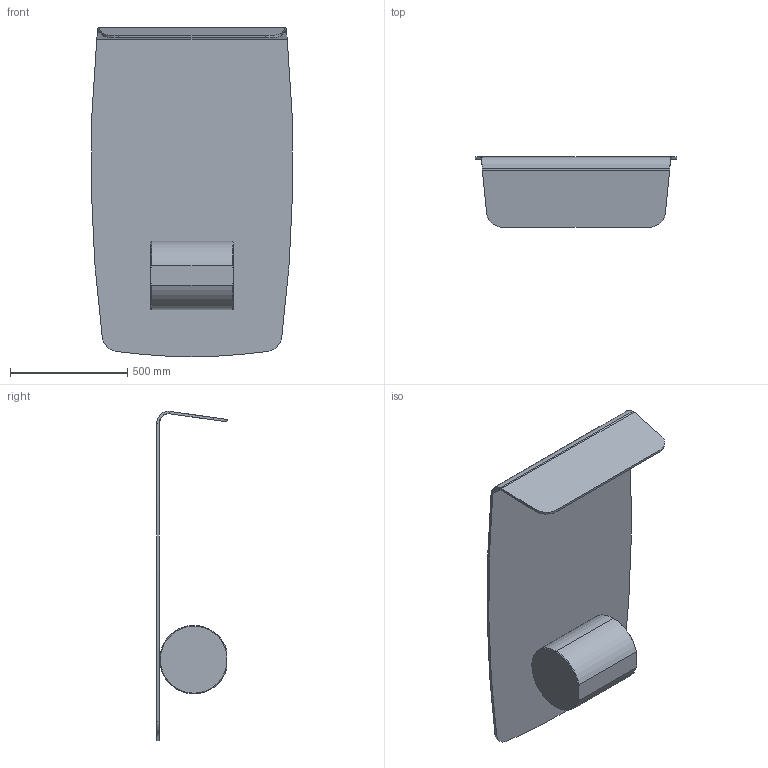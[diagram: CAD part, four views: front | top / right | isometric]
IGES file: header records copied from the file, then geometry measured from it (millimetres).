
Start section: SolidWorks IGES file using analytic representation for surfaces
Global section: file name: Y:\eforma\TECNICO\SOLIDWORKS\E-FORMA\2-TAVOLINI\TOR LOW\08 modelli 3D web\TO81G_Tor Low_140x86x30.IGS; native system: SolidWorks 2022; preprocessor: SolidWorks 2022; author: eforma.tech; date: 240802.134743; units: millimetre
Bounding box: 858.02 x 300 x 1402.48 mm (x, y, z)
Volume: 36878962 mm3; surface area: 3226163.5 mm2
Topology: 2 solids, 2 shells, 33 faces, 75 edges, 46 vertices
Faces by surface type: revolution 21, plane 8, bspline 4
